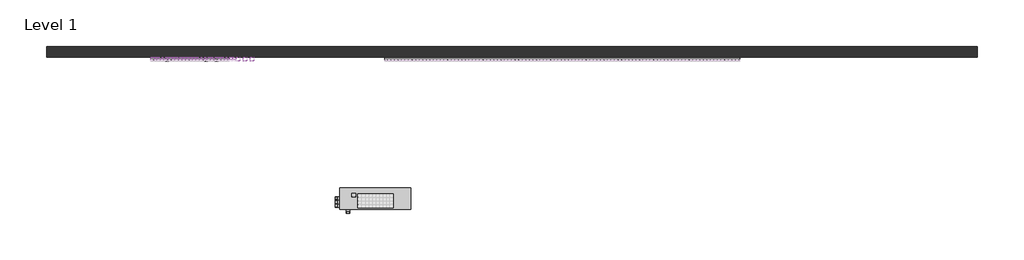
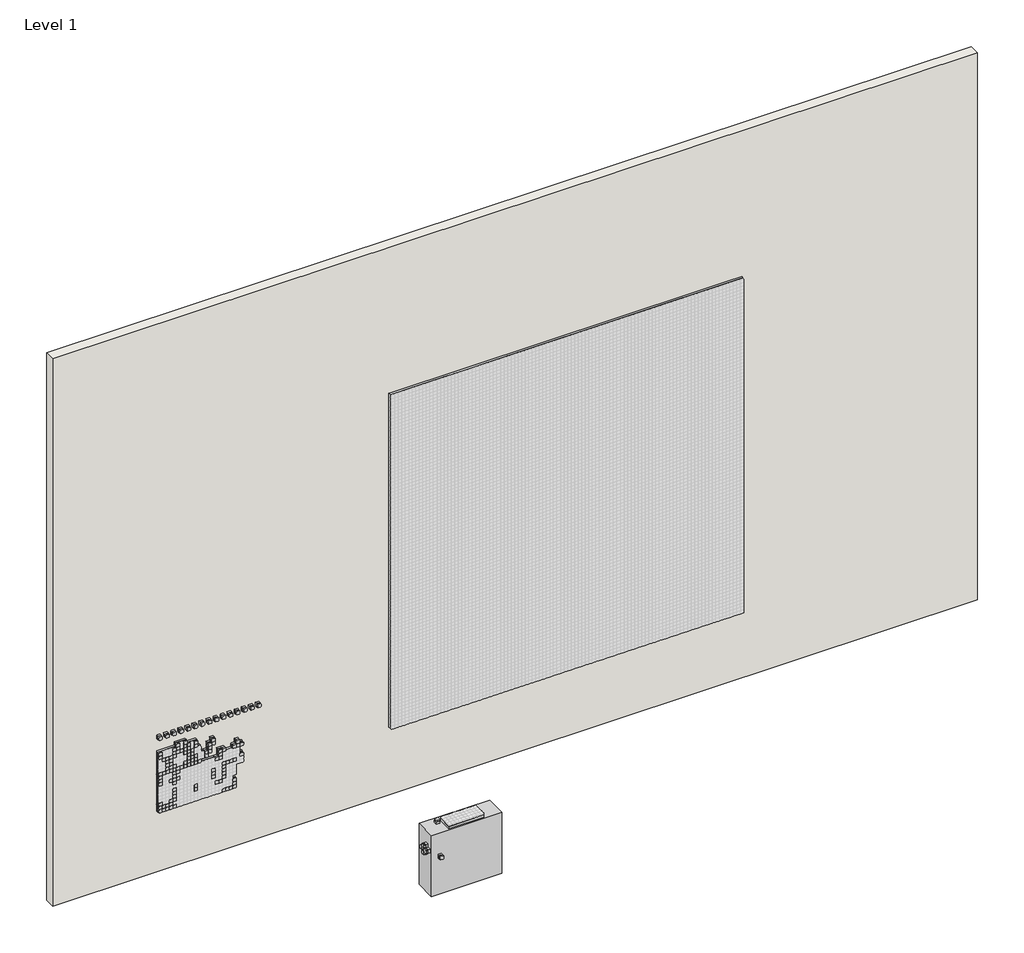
# One storey, part 1 of 71: 118 furniture elements, 39 proxies, 1 wall.
"""IFC4 building model written with IfcOpenShell, lengths in millimetres."""

from ifc_helpers import new_model, si_unit, origin, origin_with_axes, place, context, project, spatial, polyline, outline, extrude, transform, mapped, element, save
from components import generic_models_afde289c, furniture_94353657, furniture_115687b7, furniture_e3328a38, furniture_21a6de4b, furniture_6717f674, furniture_b0e0c35f, furniture_eb65c164, furniture_66459304, furniture_848c3687, furniture_9d582094, furniture_b8ba6693, furniture_cc517636, furniture_6c4caacf, furniture_a965c874, furniture_5129da02, furniture_1_furniture_1_4fa513ff

model = new_model("IFC4")

# Units and contexts
model_context = context("Model", 3, world=origin())
ifc_project = project(units=[si_unit("LENGTHUNIT", "METRE", prefix="MILLI")], contexts=[model_context])

# Site, building, storey
site = spatial("IfcSite", under=ifc_project)
building = spatial("IfcBuilding", under=site)
storey = spatial("IfcBuildingStorey", under=building, Name="Level 1", Elevation=0.0)

# Proxies
placement = place(None, origin())
generic_models_shape = generic_models_afde289c(model_context)
element("IfcBuildingElementProxy", 1, Name="Pixel_M : Pixel_M", ObjectType="Pixel_M : Pixel_M", at=placement, inside=storey, context=model_context, shape_type="MappedRepresentation", body=[
    mapped(generic_models_shape, transform((1670.0, -75.0, 1013.7975209), x_axis=(1.0, 0.0, 0.0), y_axis=(0.0, 0.0, 1.0), z_axis=(0.0, -1.0, 0.0))),
])
element("IfcBuildingElementProxy", 2, Name="Pixel_M : Pixel_M", ObjectType="Pixel_M : Pixel_M", at=placement, inside=storey, context=model_context, shape_type="MappedRepresentation", body=[
    mapped(generic_models_shape, transform((1670.0, -75.0, 913.7975209), x_axis=(1.0, 0.0, 0.0), y_axis=(0.0, 0.0, 1.0), z_axis=(0.0, -1.0, 0.0))),
])
element("IfcBuildingElementProxy", 3, Name="Pixel_M : Pixel_M", ObjectType="Pixel_M : Pixel_M", at=placement, inside=storey, context=model_context, shape_type="MappedRepresentation", body=[
    mapped(generic_models_shape, transform((1970.0, -75.0, 1113.7975209), x_axis=(1.0, 0.0, 0.0), y_axis=(0.0, 0.0, 1.0), z_axis=(0.0, -1.0, 0.0))),
])
element("IfcBuildingElementProxy", 4, Name="Pixel_M : Pixel_M", ObjectType="Pixel_M : Pixel_M", at=placement, inside=storey, context=model_context, shape_type="MappedRepresentation", body=[
    mapped(generic_models_shape, transform((1670.0, -75.0, 1113.7975209), x_axis=(1.0, 0.0, 0.0), y_axis=(0.0, 0.0, 1.0), z_axis=(0.0, -1.0, 0.0))),
])
element("IfcBuildingElementProxy", 5, Name="Pixel_M : Pixel_M", ObjectType="Pixel_M : Pixel_M", at=placement, inside=storey, context=model_context, shape_type="MappedRepresentation", body=[
    mapped(generic_models_shape, transform((1970.0, -75.0, 1063.7975209), x_axis=(1.0, 0.0, 0.0), y_axis=(0.0, 0.0, 1.0), z_axis=(0.0, -1.0, 0.0))),
])
element("IfcBuildingElementProxy", 6, Name="Pixel_M : Pixel_M", ObjectType="Pixel_M : Pixel_M", at=placement, inside=storey, context=model_context, shape_type="MappedRepresentation", body=[
    mapped(generic_models_shape, transform((1670.0, -75.0, 1063.7975209), x_axis=(1.0, 0.0, 0.0), y_axis=(0.0, 0.0, 1.0), z_axis=(0.0, -1.0, 0.0))),
])
element("IfcBuildingElementProxy", 7, Name="Pixel_M : Pixel_M", ObjectType="Pixel_M : Pixel_M", at=placement, inside=storey, context=model_context, shape_type="MappedRepresentation", body=[
    mapped(generic_models_shape, transform((1670.0, -75.0, 1413.7975209), x_axis=(1.0, 0.0, 0.0), y_axis=(0.0, 0.0, 1.0), z_axis=(0.0, -1.0, 0.0))),
])
element("IfcBuildingElementProxy", 8, Name="Pixel_M : Pixel_M", ObjectType="Pixel_M : Pixel_M", at=placement, inside=storey, context=model_context, shape_type="MappedRepresentation", body=[
    mapped(generic_models_shape, transform((1470.0, -75.0, 1413.7975209), x_axis=(1.0, 0.0, 0.0), y_axis=(0.0, 0.0, 1.0), z_axis=(0.0, -1.0, 0.0))),
])
element("IfcBuildingElementProxy", 9, Name="Pixel_M : Pixel_M", ObjectType="Pixel_M : Pixel_M", at=placement, inside=storey, context=model_context, shape_type="MappedRepresentation", body=[
    mapped(generic_models_shape, transform((1670.0, -75.0, 1363.7975209), x_axis=(1.0, 0.0, 0.0), y_axis=(0.0, 0.0, 1.0), z_axis=(0.0, -1.0, 0.0))),
])
element("IfcBuildingElementProxy", 10, Name="Pixel_M : Pixel_M", ObjectType="Pixel_M : Pixel_M", at=placement, inside=storey, context=model_context, shape_type="MappedRepresentation", body=[
    mapped(generic_models_shape, transform((1470.0, -75.0, 1363.7975209), x_axis=(1.0, 0.0, 0.0), y_axis=(0.0, 0.0, 1.0), z_axis=(0.0, -1.0, 0.0))),
])
element("IfcBuildingElementProxy", 11, Name="Pixel_M : Pixel_M", ObjectType="Pixel_M : Pixel_M", at=placement, inside=storey, context=model_context, shape_type="MappedRepresentation", body=[
    mapped(generic_models_shape, transform((1820.0, -75.0, 1663.7975209), x_axis=(1.0, 0.0, 0.0), y_axis=(0.0, 0.0, 1.0), z_axis=(0.0, -1.0, 0.0))),
])
element("IfcBuildingElementProxy", 12, Name="Pixel_M : Pixel_M", ObjectType="Pixel_M : Pixel_M", at=placement, inside=storey, context=model_context, shape_type="MappedRepresentation", body=[
    mapped(generic_models_shape, transform((1670.0, -75.0, 1663.7975209), x_axis=(1.0, 0.0, 0.0), y_axis=(0.0, 0.0, 1.0), z_axis=(0.0, -1.0, 0.0))),
])
element("IfcBuildingElementProxy", 13, Name="Pixel_M : Pixel_M", ObjectType="Pixel_M : Pixel_M", at=placement, inside=storey, context=model_context, shape_type="MappedRepresentation", body=[
    mapped(generic_models_shape, transform((1820.0, -75.0, 1513.7975209), x_axis=(1.0, 0.0, 0.0), y_axis=(0.0, 0.0, 1.0), z_axis=(0.0, -1.0, 0.0))),
])
element("IfcBuildingElementProxy", 14, Name="Pixel_M : Pixel_M", ObjectType="Pixel_M : Pixel_M", at=placement, inside=storey, context=model_context, shape_type="MappedRepresentation", body=[
    mapped(generic_models_shape, transform((1670.0, -75.0, 1513.7975209), x_axis=(1.0, 0.0, 0.0), y_axis=(0.0, 0.0, 1.0), z_axis=(0.0, -1.0, 0.0))),
])
element("IfcBuildingElementProxy", 15, Name="Pixel_M : Pixel_M", ObjectType="Pixel_M : Pixel_M", at=placement, inside=storey, context=model_context, shape_type="MappedRepresentation", body=[
    mapped(generic_models_shape, transform((1970.0, -75.0, 1563.7975209), x_axis=(1.0, 0.0, 0.0), y_axis=(0.0, 0.0, 1.0), z_axis=(0.0, -1.0, 0.0))),
])
element("IfcBuildingElementProxy", 16, Name="Pixel_M : Pixel_M", ObjectType="Pixel_M : Pixel_M", at=placement, inside=storey, context=model_context, shape_type="MappedRepresentation", body=[
    mapped(generic_models_shape, transform((1970.0, -75.0, 1513.7975209), x_axis=(1.0, 0.0, 0.0), y_axis=(0.0, 0.0, 1.0), z_axis=(0.0, -1.0, 0.0))),
])
element("IfcBuildingElementProxy", 17, Name="Pixel_M : Pixel_M", ObjectType="Pixel_M : Pixel_M", at=placement, inside=storey, context=model_context, shape_type="MappedRepresentation", body=[
    mapped(generic_models_shape, transform((1920.0, -75.0, 1663.7975209), x_axis=(1.0, 0.0, 0.0), y_axis=(0.0, 0.0, 1.0), z_axis=(0.0, -1.0, 0.0))),
])
element("IfcBuildingElementProxy", 18, Name="Pixel_M : Pixel_M", ObjectType="Pixel_M : Pixel_M", at=placement, inside=storey, context=model_context, shape_type="MappedRepresentation", body=[
    mapped(generic_models_shape, transform((1920.0, -75.0, 1613.7975209), x_axis=(1.0, 0.0, 0.0), y_axis=(0.0, 0.0, 1.0), z_axis=(0.0, -1.0, 0.0))),
])
element("IfcBuildingElementProxy", 19, Name="Pixel_M : Pixel_M", ObjectType="Pixel_M : Pixel_M", at=placement, inside=storey, context=model_context, shape_type="MappedRepresentation", body=[
    mapped(generic_models_shape, transform((1970.0, -75.0, 1763.7975209), x_axis=(1.0, 0.0, 0.0), y_axis=(0.0, 0.0, 1.0), z_axis=(0.0, -1.0, 0.0))),
])
element("IfcBuildingElementProxy", 20, Name="Pixel_M : Pixel_M", ObjectType="Pixel_M : Pixel_M", at=placement, inside=storey, context=model_context, shape_type="MappedRepresentation", body=[
    mapped(generic_models_shape, transform((1870.0, -75.0, 1763.7975209), x_axis=(1.0, 0.0, 0.0), y_axis=(0.0, 0.0, 1.0), z_axis=(0.0, -1.0, 0.0))),
])
element("IfcBuildingElementProxy", 21, Name="Pixel_M : Pixel_M", ObjectType="Pixel_M : Pixel_M", at=placement, inside=storey, context=model_context, shape_type="MappedRepresentation", body=[
    mapped(generic_models_shape, transform((1970.0, -75.0, 1713.7975209), x_axis=(1.0, 0.0, 0.0), y_axis=(0.0, 0.0, 1.0), z_axis=(0.0, -1.0, 0.0))),
])
element("IfcBuildingElementProxy", 22, Name="Pixel_M : Pixel_M", ObjectType="Pixel_M : Pixel_M", at=placement, inside=storey, context=model_context, shape_type="MappedRepresentation", body=[
    mapped(generic_models_shape, transform((1870.0, -75.0, 1713.7975209), x_axis=(1.0, 0.0, 0.0), y_axis=(0.0, 0.0, 1.0), z_axis=(0.0, -1.0, 0.0))),
])
element("IfcBuildingElementProxy", 23, Name="Pixel_M : Pixel_M", ObjectType="Pixel_M : Pixel_M", at=placement, inside=storey, context=model_context, shape_type="MappedRepresentation", body=[
    mapped(generic_models_shape, transform((1820.0, -75.0, 1813.7975209), x_axis=(1.0, 0.0, 0.0), y_axis=(0.0, 0.0, 1.0), z_axis=(0.0, -1.0, 0.0))),
])
element("IfcBuildingElementProxy", 24, Name="Pixel_M : Pixel_M", ObjectType="Pixel_M : Pixel_M", at=placement, inside=storey, context=model_context, shape_type="MappedRepresentation", body=[
    mapped(generic_models_shape, transform((1720.0, -75.0, 1813.7975209), x_axis=(1.0, 0.0, 0.0), y_axis=(0.0, 0.0, 1.0), z_axis=(0.0, -1.0, 0.0))),
])
element("IfcBuildingElementProxy", 25, Name="Pixel_M : Pixel_M", ObjectType="Pixel_M : Pixel_M", at=placement, inside=storey, context=model_context, shape_type="MappedRepresentation", body=[
    mapped(generic_models_shape, transform((1820.0, -75.0, 1763.7975209), x_axis=(1.0, 0.0, 0.0), y_axis=(0.0, 0.0, 1.0), z_axis=(0.0, -1.0, 0.0))),
])
element("IfcBuildingElementProxy", 26, Name="Pixel_M : Pixel_M", ObjectType="Pixel_M : Pixel_M", at=placement, inside=storey, context=model_context, shape_type="MappedRepresentation", body=[
    mapped(generic_models_shape, transform((1720.0, -75.0, 1763.7975209), x_axis=(1.0, 0.0, 0.0), y_axis=(0.0, 0.0, 1.0), z_axis=(0.0, -1.0, 0.0))),
])
element("IfcBuildingElementProxy", 27, Name="Pixel_M : Pixel_M", ObjectType="Pixel_M : Pixel_M", at=placement, inside=storey, context=model_context, shape_type="MappedRepresentation", body=[
    mapped(generic_models_shape, transform((1520.0, -75.0, 1663.7975209), x_axis=(1.0, 0.0, 0.0), y_axis=(0.0, 0.0, 1.0), z_axis=(0.0, -1.0, 0.0))),
])
element("IfcBuildingElementProxy", 28, Name="Pixel_M : Pixel_M", ObjectType="Pixel_M : Pixel_M", at=placement, inside=storey, context=model_context, shape_type="MappedRepresentation", body=[
    mapped(generic_models_shape, transform((1620.0, -75.0, 1313.7975209), x_axis=(1.0, 0.0, 0.0), y_axis=(0.0, 0.0, 1.0), z_axis=(0.0, -1.0, 0.0))),
])
element("IfcBuildingElementProxy", 29, Name="Pixel_M : Pixel_M", ObjectType="Pixel_M : Pixel_M", at=placement, inside=storey, context=model_context, shape_type="MappedRepresentation", body=[
    mapped(generic_models_shape, transform((1470.0, -75.0, 1313.7975209), x_axis=(1.0, 0.0, 0.0), y_axis=(0.0, 0.0, 1.0), z_axis=(0.0, -1.0, 0.0))),
])
element("IfcBuildingElementProxy", 30, Name="Pixel_M : Pixel_M", ObjectType="Pixel_M : Pixel_M", at=placement, inside=storey, context=model_context, shape_type="MappedRepresentation", body=[
    mapped(generic_models_shape, transform((1620.0, -75.0, 1013.7975209), x_axis=(1.0, 0.0, 0.0), y_axis=(0.0, 0.0, 1.0), z_axis=(0.0, -1.0, 0.0))),
])
element("IfcBuildingElementProxy", 31, Name="Pixel_M : Pixel_M", ObjectType="Pixel_M : Pixel_M", at=placement, inside=storey, context=model_context, shape_type="MappedRepresentation", body=[
    mapped(generic_models_shape, transform((1470.0, -75.0, 1013.7975209), x_axis=(1.0, 0.0, 0.0), y_axis=(0.0, 0.0, 1.0), z_axis=(0.0, -1.0, 0.0))),
])
element("IfcBuildingElementProxy", 32, Name="Pixel_M : Pixel_M", ObjectType="Pixel_M : Pixel_M", at=placement, inside=storey, context=model_context, shape_type="MappedRepresentation", body=[
    mapped(generic_models_shape, transform((1670.0, -75.0, 1263.7975209), x_axis=(1.0, 0.0, 0.0), y_axis=(0.0, 0.0, 1.0), z_axis=(0.0, -1.0, 0.0))),
])
element("IfcBuildingElementProxy", 33, Name="Pixel_M : Pixel_M", ObjectType="Pixel_M : Pixel_M", at=placement, inside=storey, context=model_context, shape_type="MappedRepresentation", body=[
    mapped(generic_models_shape, transform((1670.0, -75.0, 1163.7975209), x_axis=(1.0, 0.0, 0.0), y_axis=(0.0, 0.0, 1.0), z_axis=(0.0, -1.0, 0.0))),
])
element("IfcBuildingElementProxy", 34, Name="Pixel_M : Pixel_M", ObjectType="Pixel_M : Pixel_M", at=placement, inside=storey, context=model_context, shape_type="MappedRepresentation", body=[
    mapped(generic_models_shape, transform((1720.0, -75.0, 1413.7975209), x_axis=(1.0, 0.0, 0.0), y_axis=(0.0, 0.0, 1.0), z_axis=(0.0, -1.0, 0.0))),
])
element("IfcBuildingElementProxy", 35, Name="Pixel_M : Pixel_M", ObjectType="Pixel_M : Pixel_M", at=placement, inside=storey, context=model_context, shape_type="MappedRepresentation", body=[
    mapped(generic_models_shape, transform((1720.0, -75.0, 1313.7975209), x_axis=(1.0, 0.0, 0.0), y_axis=(0.0, 0.0, 1.0), z_axis=(0.0, -1.0, 0.0))),
])
element("IfcBuildingElementProxy", 36, Name="Pixel_M : Pixel_M", ObjectType="Pixel_M : Pixel_M", at=placement, inside=storey, context=model_context, shape_type="MappedRepresentation", body=[
    mapped(generic_models_shape, transform((1670.0, -75.0, 1763.7975209), x_axis=(1.0, 0.0, 0.0), y_axis=(0.0, 0.0, 1.0), z_axis=(0.0, -1.0, 0.0))),
])
element("IfcBuildingElementProxy", 37, Name="Pixel_M : Pixel_M", ObjectType="Pixel_M : Pixel_M", at=placement, inside=storey, context=model_context, shape_type="MappedRepresentation", body=[
    mapped(generic_models_shape, transform((1470.0, -75.0, 1763.7975209), x_axis=(1.0, 0.0, 0.0), y_axis=(0.0, 0.0, 1.0), z_axis=(0.0, -1.0, 0.0))),
])
element("IfcBuildingElementProxy", 38, Name="Pixel_M : Pixel_M", ObjectType="Pixel_M : Pixel_M", at=placement, inside=storey, context=model_context, shape_type="MappedRepresentation", body=[
    mapped(generic_models_shape, transform((1670.0, -75.0, 1713.7975209), x_axis=(1.0, 0.0, 0.0), y_axis=(0.0, 0.0, 1.0), z_axis=(0.0, -1.0, 0.0))),
])
element("IfcBuildingElementProxy", 39, Name="Pixel_M : Pixel_M", ObjectType="Pixel_M : Pixel_M", at=placement, inside=storey, context=model_context, shape_type="MappedRepresentation", body=[
    mapped(generic_models_shape, transform((1470.0, -75.0, 1713.7975209), x_axis=(1.0, 0.0, 0.0), y_axis=(0.0, 0.0, 1.0), z_axis=(0.0, -1.0, 0.0))),
])

# Furniture
furniture_shape = furniture_94353657(model_context)
element("IfcFurniture", 40, ObjectType="Pixel_Multiple : Pixel_Multiple", at=placement, inside=storey, context=model_context, shape_type="MappedRepresentation", body=[
    mapped(furniture_shape, transform((2270.0, -75.0, 1313.7975209), x_axis=(1.0, 0.0, 0.0), y_axis=(0.0, 0.0, 1.0), z_axis=(0.0, -1.0, 0.0))),
])
element("IfcFurniture", 41, ObjectType="Pixel_Multiple : Pixel_Multiple", at=placement, inside=storey, context=model_context, shape_type="MappedRepresentation", body=[
    mapped(furniture_shape, transform((2570.0, -75.0, 1263.7975209), x_axis=(1.0, 0.0, 0.0), y_axis=(0.0, 0.0, 1.0), z_axis=(0.0, -1.0, 0.0))),
])
furniture_2_shape = furniture_115687b7(model_context)
element("IfcFurniture", 42, ObjectType="Pixel_Multiple : Pixel_Multiple", at=placement, inside=storey, context=model_context, shape_type="MappedRepresentation", body=[
    mapped(furniture_2_shape, transform((2270.0, -75.0, 1113.7975209), x_axis=(1.0, 0.0, 0.0), y_axis=(0.0, 0.0, 1.0), z_axis=(0.0, -1.0, 0.0))),
])
element("IfcFurniture", 43, ObjectType="Pixel_Multiple : Pixel_Multiple", at=placement, inside=storey, context=model_context, shape_type="MappedRepresentation", body=[
    mapped(furniture_2_shape, transform((1470.0, -75.0, 1513.7975209), x_axis=(1.0, 0.0, 0.0), y_axis=(0.0, 0.0, 1.0), z_axis=(0.0, -1.0, 0.0))),
])
furniture_3_shape = furniture_e3328a38(model_context)
element("IfcFurniture", 44, ObjectType="Pixel_Multiple : Pixel_Multiple", at=placement, inside=storey, context=model_context, shape_type="MappedRepresentation", body=[
    mapped(furniture_3_shape, transform((2020.0, -75.0, 1063.7975209), x_axis=(1.0, 0.0, 0.0), y_axis=(0.0, 0.0, 1.0), z_axis=(0.0, -1.0, 0.0))),
])
element("IfcFurniture", 45, ObjectType="Pixel_Multiple : Pixel_Multiple", at=placement, inside=storey, context=model_context, shape_type="MappedRepresentation", body=[
    mapped(furniture_3_shape, transform((1470.0, -75.0, 1713.7975209), x_axis=(1.0, 0.0, 0.0), y_axis=(0.0, 0.0, 1.0), z_axis=(0.0, -1.0, 0.0))),
])
furniture_4_shape = furniture_21a6de4b(model_context)
element("IfcFurniture", 46, ObjectType="Pixel_Multiple : Pixel_Multiple", at=placement, inside=storey, context=model_context, shape_type="MappedRepresentation", body=[
    mapped(furniture_4_shape, transform((1970.0, -75.0, 1513.7975209), x_axis=(1.0, 0.0, 0.0), y_axis=(0.0, 0.0, 1.0), z_axis=(0.0, -1.0, 0.0))),
])
element("IfcFurniture", 47, ObjectType="Pixel_Multiple : Pixel_Multiple", at=placement, inside=storey, context=model_context, shape_type="MappedRepresentation", body=[
    mapped(furniture_4_shape, transform((1920.0, -75.0, 1613.7975209), x_axis=(1.0, 0.0, 0.0), y_axis=(0.0, 0.0, 1.0), z_axis=(0.0, -1.0, 0.0))),
])
element("IfcFurniture", 48, ObjectType="Pixel_Multiple : Pixel_Multiple", at=placement, inside=storey, context=model_context, shape_type="MappedRepresentation", body=[
    mapped(furniture_4_shape, transform((1870.0, -75.0, 1713.7975209), x_axis=(1.0, 0.0, 0.0), y_axis=(0.0, 0.0, 1.0), z_axis=(0.0, -1.0, 0.0))),
])
element("IfcFurniture", 49, ObjectType="Pixel_Multiple : Pixel_Multiple", at=placement, inside=storey, context=model_context, shape_type="MappedRepresentation", body=[
    mapped(furniture_4_shape, transform((1720.0, -75.0, 1763.7975209), x_axis=(1.0, 0.0, 0.0), y_axis=(0.0, 0.0, 1.0), z_axis=(0.0, -1.0, 0.0))),
])
furniture_5_shape = furniture_6717f674(model_context)
element("IfcFurniture", 50, ObjectType="Pixel_Multiple : Pixel_Multiple", at=placement, inside=storey, context=model_context, shape_type="MappedRepresentation", body=[
    mapped(furniture_5_shape, transform((1670.0, -75.0, 1513.7975209), x_axis=(1.0, 0.0, 0.0), y_axis=(0.0, 0.0, 1.0), z_axis=(0.0, -1.0, 0.0))),
])
furniture_6_shape = furniture_b0e0c35f(model_context)
element("IfcFurniture", 51, ObjectType="Pixel_Multiple : Pixel_Multiple", at=placement, inside=storey, context=model_context, shape_type="MappedRepresentation", body=[
    mapped(furniture_6_shape, transform((1470.0, -75.0, 1013.7975209), x_axis=(1.0, 0.0, 0.0), y_axis=(0.0, 0.0, 1.0), z_axis=(0.0, -1.0, 0.0))),
])
element("IfcFurniture", 52, ObjectType="Pixel_Multiple : Pixel_Multiple", at=placement, inside=storey, context=model_context, shape_type="MappedRepresentation", body=[
    mapped(furniture_3_shape, transform((1470.0, -75.0, 1363.7975209), x_axis=(1.0, 0.0, 0.0), y_axis=(0.0, 0.0, 1.0), z_axis=(0.0, -1.0, 0.0))),
])
furniture_7_shape = furniture_eb65c164(model_context)
element("IfcFurniture", 53, ObjectType="Pixel_Multiple : Pixel_Multiple", at=placement, inside=storey, context=model_context, shape_type="MappedRepresentation", body=[
    mapped(furniture_7_shape, transform((1670.0, -75.0, 1063.7975209), x_axis=(1.0, 0.0, 0.0), y_axis=(0.0, 0.0, 1.0), z_axis=(0.0, -1.0, 0.0))),
])
furniture_8_shape = furniture_66459304(model_context)
element("IfcFurniture", 54, ObjectType="Pixel_Multiple : Pixel_Multiple", at=placement, inside=storey, context=model_context, shape_type="MappedRepresentation", body=[
    mapped(furniture_8_shape, transform((1670.0, -75.0, 913.7975209), x_axis=(1.0, 0.0, 0.0), y_axis=(0.0, 0.0, 1.0), z_axis=(0.0, -1.0, 0.0))),
])
furniture_9_shape = furniture_848c3687(model_context)
element("IfcFurniture", 55, ObjectType="Pixel_Multiple : Pixel_Multiple", at=placement, inside=storey, context=model_context, shape_type="MappedRepresentation", body=[
    mapped(furniture_9_shape, transform((1670.0, -75.0, 1163.7975209), x_axis=(1.0, 0.0, 0.0), y_axis=(0.0, 0.0, 1.0), z_axis=(0.0, -1.0, 0.0))),
])
element("IfcFurniture", 56, ObjectType="Pixel_Multiple : Pixel_Multiple", at=placement, inside=storey, context=model_context, shape_type="MappedRepresentation", body=[
    mapped(furniture_9_shape, transform((1720.0, -75.0, 1313.7975209), x_axis=(1.0, 0.0, 0.0), y_axis=(0.0, 0.0, 1.0), z_axis=(0.0, -1.0, 0.0))),
])
furniture_10_shape = furniture_9d582094(model_context)
element("IfcFurniture", 57, ObjectType="Pixel_Multiple : Pixel_Multiple", at=placement, inside=storey, context=model_context, shape_type="MappedRepresentation", body=[
    mapped(furniture_10_shape, transform((2420.0, -75.0, 1113.7975209), x_axis=(1.0, 0.0, 0.0), y_axis=(0.0, 0.0, 1.0), z_axis=(0.0, -1.0, 0.0))),
])
furniture_11_shape = furniture_b8ba6693(model_context)
element("IfcFurniture", 58, ObjectType="Pixel_Multiple : Pixel_Multiple", at=placement, inside=storey, context=model_context, shape_type="MappedRepresentation", body=[
    mapped(furniture_11_shape, transform((2370.0, -75.0, 963.7975209), x_axis=(1.0, 0.0, 0.0), y_axis=(0.0, 0.0, 1.0), z_axis=(0.0, -1.0, 0.0))),
])
furniture_12_shape = furniture_cc517636(model_context)
element("IfcFurniture", 59, ObjectType="Pixel_Multiple : Pixel_Multiple", at=placement, inside=storey, context=model_context, shape_type="MappedRepresentation", body=[
    mapped(furniture_12_shape, transform((2370.0, -75.0, 1363.7975209), x_axis=(1.0, 0.0, 0.0), y_axis=(0.0, 0.0, 1.0), z_axis=(0.0, -1.0, 0.0))),
])
furniture_13_shape = furniture_6c4caacf(model_context)
element("IfcFurniture", 60, ObjectType="Pixel_Multiple : Pixel_Multiple", at=placement, inside=storey, context=model_context, shape_type="MappedRepresentation", body=[
    mapped(furniture_13_shape, transform((4762.428094, -75.0, 1016.3566215), x_axis=(1.0, 0.0, 0.0), y_axis=(0.0, 0.0, 1.0), z_axis=(0.0, -1.0, 0.0))),
])
furniture_14_shape = furniture_a965c874(model_context)
element("IfcFurniture", 61, ObjectType="Pixel_Multiple : Pixel_Multiple", at=placement, inside=storey, context=model_context, shape_type="MappedRepresentation", body=[
    mapped(furniture_14_shape, transform((4883.8917257, -2203.0296603, 913.2497015), x_axis=(0.0, 1.0, 0.0), y_axis=(-1.0, 0.0, 0.0), z_axis=(0.0, 0.0, 1.0))),
])
furniture_15_shape = furniture_5129da02(model_context)
element("IfcFurniture", 62, ObjectType="Pixel_Single : Pixel_Single", at=placement, inside=storey, context=model_context, shape_type="MappedRepresentation", body=[
    mapped(furniture_15_shape, transform((4300.0, -1995.0, 913.2497015), x_axis=(0.0, -1.0, 0.0), y_axis=(1.0, 0.0, 0.0), z_axis=(0.0, 0.0, 1.0))),
])
element("IfcFurniture", 63, ObjectType="Pixel_Single : Pixel_Single", at=placement, inside=storey, context=model_context, shape_type="MappedRepresentation", body=[
    mapped(furniture_15_shape, transform((4220.0, -2219.7736366, 600.5914545), x_axis=(0.0, 0.0, -1.0), y_axis=(1.0, 0.0, 0.0), z_axis=(0.0, -1.0, 0.0))),
])
element("IfcFurniture", 64, ObjectType="Pixel_Single : Pixel_Single", at=placement, inside=storey, context=model_context, shape_type="MappedRepresentation", body=[
    mapped(furniture_15_shape, transform((2070.0, -75.0, 2000.0), x_axis=(1.0, 0.0, 0.0), y_axis=(0.0, 0.0, 1.0), z_axis=(0.0, -1.0, 0.0))),
])
element("IfcFurniture", 65, ObjectType="Pixel_Single : Pixel_Single", at=placement, inside=storey, context=model_context, shape_type="MappedRepresentation", body=[
    mapped(furniture_15_shape, transform((1620.0, -75.0, 913.7975209), x_axis=(1.0, 0.0, 0.0), y_axis=(0.0, 0.0, 1.0), z_axis=(0.0, -1.0, 0.0))),
])
element("IfcFurniture", 66, ObjectType="Pixel_Single : Pixel_Single", at=placement, inside=storey, context=model_context, shape_type="MappedRepresentation", body=[
    mapped(furniture_15_shape, transform((1570.0, -75.0, 913.7975209), x_axis=(1.0, 0.0, 0.0), y_axis=(0.0, 0.0, 1.0), z_axis=(0.0, -1.0, 0.0))),
])
element("IfcFurniture", 67, ObjectType="Pixel_Single : Pixel_Single", at=placement, inside=storey, context=model_context, shape_type="MappedRepresentation", body=[
    mapped(furniture_15_shape, transform((1520.0, -75.0, 913.7975209), x_axis=(1.0, 0.0, 0.0), y_axis=(0.0, 0.0, 1.0), z_axis=(0.0, -1.0, 0.0))),
])
element("IfcFurniture", 68, ObjectType="Pixel_Single : Pixel_Single", at=placement, inside=storey, context=model_context, shape_type="MappedRepresentation", body=[
    mapped(furniture_15_shape, transform((1620.0, -75.0, 963.7975209), x_axis=(1.0, 0.0, 0.0), y_axis=(0.0, 0.0, 1.0), z_axis=(0.0, -1.0, 0.0))),
])
element("IfcFurniture", 69, ObjectType="Pixel_Single : Pixel_Single", at=placement, inside=storey, context=model_context, shape_type="MappedRepresentation", body=[
    mapped(furniture_15_shape, transform((1470.0, -75.0, 913.7975209), x_axis=(1.0, 0.0, 0.0), y_axis=(0.0, 0.0, 1.0), z_axis=(0.0, -1.0, 0.0))),
])
element("IfcFurniture", 70, ObjectType="Pixel_Single : Pixel_Single", at=placement, inside=storey, context=model_context, shape_type="MappedRepresentation", body=[
    mapped(furniture_15_shape, transform((1670.0, -75.0, 1313.7975209), x_axis=(1.0, 0.0, 0.0), y_axis=(0.0, 0.0, 1.0), z_axis=(0.0, -1.0, 0.0))),
])
element("IfcFurniture", 71, ObjectType="Pixel_Single : Pixel_Single", at=placement, inside=storey, context=model_context, shape_type="MappedRepresentation", body=[
    mapped(furniture_15_shape, transform((2520.0, -75.0, 913.7975209), x_axis=(1.0, 0.0, 0.0), y_axis=(0.0, 0.0, 1.0), z_axis=(0.0, -1.0, 0.0))),
])
element("IfcFurniture", 72, ObjectType="Pixel_Single : Pixel_Single", at=placement, inside=storey, context=model_context, shape_type="MappedRepresentation", body=[
    mapped(furniture_15_shape, transform((2470.0, -75.0, 913.7975209), x_axis=(1.0, 0.0, 0.0), y_axis=(0.0, 0.0, 1.0), z_axis=(0.0, -1.0, 0.0))),
])
element("IfcFurniture", 73, ObjectType="Pixel_Single : Pixel_Single", at=placement, inside=storey, context=model_context, shape_type="MappedRepresentation", body=[
    mapped(furniture_15_shape, transform((2420.0, -75.0, 913.7975209), x_axis=(1.0, 0.0, 0.0), y_axis=(0.0, 0.0, 1.0), z_axis=(0.0, -1.0, 0.0))),
])
element("IfcFurniture", 74, ObjectType="Pixel_Single : Pixel_Single", at=placement, inside=storey, context=model_context, shape_type="MappedRepresentation", body=[
    mapped(furniture_15_shape, transform((2370.0, -75.0, 913.7975209), x_axis=(1.0, 0.0, 0.0), y_axis=(0.0, 0.0, 1.0), z_axis=(0.0, -1.0, 0.0))),
])
element("IfcFurniture", 75, ObjectType="Pixel_Single : Pixel_Single", at=placement, inside=storey, context=model_context, shape_type="MappedRepresentation", body=[
    mapped(furniture_15_shape, transform((1870.0, -75.0, 1563.7975209), x_axis=(1.0, 0.0, 0.0), y_axis=(0.0, 0.0, 1.0), z_axis=(0.0, -1.0, 0.0))),
])
element("IfcFurniture", 76, ObjectType="Pixel_Single : Pixel_Single", at=placement, inside=storey, context=model_context, shape_type="MappedRepresentation", body=[
    mapped(furniture_15_shape, transform((1870.0, -75.0, 1613.7975209), x_axis=(1.0, 0.0, 0.0), y_axis=(0.0, 0.0, 1.0), z_axis=(0.0, -1.0, 0.0))),
])
element("IfcFurniture", 77, ObjectType="Pixel_Single : Pixel_Single", at=placement, inside=storey, context=model_context, shape_type="MappedRepresentation", body=[
    mapped(furniture_15_shape, transform((2370.0, -75.0, 1113.7975209), x_axis=(1.0, 0.0, 0.0), y_axis=(0.0, 0.0, 1.0), z_axis=(0.0, -1.0, 0.0))),
])
element("IfcFurniture", 78, ObjectType="Pixel_Single : Pixel_Single", at=placement, inside=storey, context=model_context, shape_type="MappedRepresentation", body=[
    mapped(furniture_15_shape, transform((2370.0, -75.0, 1163.7975209), x_axis=(1.0, 0.0, 0.0), y_axis=(0.0, 0.0, 1.0), z_axis=(0.0, -1.0, 0.0))),
])
element("IfcFurniture", 79, ObjectType="Pixel_Single : Pixel_Single", at=placement, inside=storey, context=model_context, shape_type="MappedRepresentation", body=[
    mapped(furniture_15_shape, transform((1920.0, -75.0, 1563.7975209), x_axis=(1.0, 0.0, 0.0), y_axis=(0.0, 0.0, 1.0), z_axis=(0.0, -1.0, 0.0))),
])
element("IfcFurniture", 80, ObjectType="Pixel_Single : Pixel_Single", at=placement, inside=storey, context=model_context, shape_type="MappedRepresentation", body=[
    mapped(furniture_15_shape, transform((1720.0, -75.0, 1463.7975209), x_axis=(1.0, 0.0, 0.0), y_axis=(0.0, 0.0, 1.0), z_axis=(0.0, -1.0, 0.0))),
])
element("IfcFurniture", 81, ObjectType="Pixel_Single : Pixel_Single", at=placement, inside=storey, context=model_context, shape_type="MappedRepresentation", body=[
    mapped(furniture_15_shape, transform((1770.0, -75.0, 1463.7975209), x_axis=(1.0, 0.0, 0.0), y_axis=(0.0, 0.0, 1.0), z_axis=(0.0, -1.0, 0.0))),
])
element("IfcFurniture", 82, ObjectType="Pixel_Single : Pixel_Single", at=placement, inside=storey, context=model_context, shape_type="MappedRepresentation", body=[
    mapped(furniture_15_shape, transform((1820.0, -75.0, 1463.7975209), x_axis=(1.0, 0.0, 0.0), y_axis=(0.0, 0.0, 1.0), z_axis=(0.0, -1.0, 0.0))),
])
element("IfcFurniture", 83, ObjectType="Pixel_Single : Pixel_Single", at=placement, inside=storey, context=model_context, shape_type="MappedRepresentation", body=[
    mapped(furniture_15_shape, transform((1770.0, -75.0, 1713.7975209), x_axis=(1.0, 0.0, 0.0), y_axis=(0.0, 0.0, 1.0), z_axis=(0.0, -1.0, 0.0))),
])
element("IfcFurniture", 84, ObjectType="Pixel_Single : Pixel_Single", at=placement, inside=storey, context=model_context, shape_type="MappedRepresentation", body=[
    mapped(furniture_15_shape, transform((1820.0, -75.0, 1713.7975209), x_axis=(1.0, 0.0, 0.0), y_axis=(0.0, 0.0, 1.0), z_axis=(0.0, -1.0, 0.0))),
])
element("IfcFurniture", 85, ObjectType="Pixel_Single : Pixel_Single", at=placement, inside=storey, context=model_context, shape_type="MappedRepresentation", body=[
    mapped(furniture_15_shape, transform((1470.0, -75.0, 1463.7975209), x_axis=(1.0, 0.0, 0.0), y_axis=(0.0, 0.0, 1.0), z_axis=(0.0, -1.0, 0.0))),
])
element("IfcFurniture", 86, ObjectType="Pixel_Single : Pixel_Single", at=placement, inside=storey, context=model_context, shape_type="MappedRepresentation", body=[
    mapped(furniture_15_shape, transform((1520.0, -75.0, 1463.7975209), x_axis=(1.0, 0.0, 0.0), y_axis=(0.0, 0.0, 1.0), z_axis=(0.0, -1.0, 0.0))),
])
element("IfcFurniture", 87, ObjectType="Pixel_Single : Pixel_Single", at=placement, inside=storey, context=model_context, shape_type="MappedRepresentation", body=[
    mapped(furniture_15_shape, transform((1570.0, -75.0, 1463.7975209), x_axis=(1.0, 0.0, 0.0), y_axis=(0.0, 0.0, 1.0), z_axis=(0.0, -1.0, 0.0))),
])
element("IfcFurniture", 88, ObjectType="Pixel_Single : Pixel_Single", at=placement, inside=storey, context=model_context, shape_type="MappedRepresentation", body=[
    mapped(furniture_15_shape, transform((1620.0, -75.0, 1563.7975209), x_axis=(1.0, 0.0, 0.0), y_axis=(0.0, 0.0, 1.0), z_axis=(0.0, -1.0, 0.0))),
])
element("IfcFurniture", 89, ObjectType="Pixel_Single : Pixel_Single", at=placement, inside=storey, context=model_context, shape_type="MappedRepresentation", body=[
    mapped(furniture_15_shape, transform((1620.0, -75.0, 1663.7975209), x_axis=(1.0, 0.0, 0.0), y_axis=(0.0, 0.0, 1.0), z_axis=(0.0, -1.0, 0.0))),
])
element("IfcFurniture", 90, ObjectType="Pixel_Single : Pixel_Single", at=placement, inside=storey, context=model_context, shape_type="MappedRepresentation", body=[
    mapped(furniture_15_shape, transform((1570.0, -75.0, 1513.7975209), x_axis=(1.0, 0.0, 0.0), y_axis=(0.0, 0.0, 1.0), z_axis=(0.0, -1.0, 0.0))),
])
element("IfcFurniture", 91, ObjectType="Pixel_Single : Pixel_Single", at=placement, inside=storey, context=model_context, shape_type="MappedRepresentation", body=[
    mapped(furniture_15_shape, transform((2270.0, -75.0, 2000.0), x_axis=(1.0, 0.0, 0.0), y_axis=(0.0, 0.0, 1.0), z_axis=(0.0, -1.0, 0.0))),
])
element("IfcFurniture", 92, ObjectType="Pixel_Single : Pixel_Single", at=placement, inside=storey, context=model_context, shape_type="MappedRepresentation", body=[
    mapped(furniture_15_shape, transform((2570.0, -75.0, 2000.0), x_axis=(1.0, 0.0, 0.0), y_axis=(0.0, 0.0, 1.0), z_axis=(0.0, -1.0, 0.0))),
])
element("IfcFurniture", 93, ObjectType="Pixel_Single : Pixel_Single", at=placement, inside=storey, context=model_context, shape_type="MappedRepresentation", body=[
    mapped(furniture_15_shape, transform((1470.0, -75.0, 2000.0), x_axis=(1.0, 0.0, 0.0), y_axis=(0.0, 0.0, 1.0), z_axis=(0.0, -1.0, 0.0))),
])
element("IfcFurniture", 94, ObjectType="Pixel_Single : Pixel_Single", at=placement, inside=storey, context=model_context, shape_type="MappedRepresentation", body=[
    mapped(furniture_15_shape, transform((1570.0, -75.0, 963.7975209), x_axis=(1.0, 0.0, 0.0), y_axis=(0.0, 0.0, 1.0), z_axis=(0.0, -1.0, 0.0))),
])
element("IfcFurniture", 95, ObjectType="Pixel_Single : Pixel_Single", at=placement, inside=storey, context=model_context, shape_type="MappedRepresentation", body=[
    mapped(furniture_15_shape, transform((1520.0, -75.0, 963.7975209), x_axis=(1.0, 0.0, 0.0), y_axis=(0.0, 0.0, 1.0), z_axis=(0.0, -1.0, 0.0))),
])
element("IfcFurniture", 96, ObjectType="Pixel_Single : Pixel_Single", at=placement, inside=storey, context=model_context, shape_type="MappedRepresentation", body=[
    mapped(furniture_15_shape, transform((1470.0, -75.0, 963.7975209), x_axis=(1.0, 0.0, 0.0), y_axis=(0.0, 0.0, 1.0), z_axis=(0.0, -1.0, 0.0))),
])
element("IfcFurniture", 97, ObjectType="Pixel_Single : Pixel_Single", at=placement, inside=storey, context=model_context, shape_type="MappedRepresentation", body=[
    mapped(furniture_15_shape, transform((2320.0, -75.0, 1463.7975209), x_axis=(1.0, 0.0, 0.0), y_axis=(0.0, 0.0, 1.0), z_axis=(0.0, -1.0, 0.0))),
])
element("IfcFurniture", 98, ObjectType="Pixel_Single : Pixel_Single", at=placement, inside=storey, context=model_context, shape_type="MappedRepresentation", body=[
    mapped(furniture_15_shape, transform((2270.0, -75.0, 1063.7975209), x_axis=(1.0, 0.0, 0.0), y_axis=(0.0, 0.0, 1.0), z_axis=(0.0, -1.0, 0.0))),
])
element("IfcFurniture", 99, ObjectType="Pixel_Single : Pixel_Single", at=placement, inside=storey, context=model_context, shape_type="MappedRepresentation", body=[
    mapped(furniture_15_shape, transform((2220.0, -75.0, 1213.7975209), x_axis=(1.0, 0.0, 0.0), y_axis=(0.0, 0.0, 1.0), z_axis=(0.0, -1.0, 0.0))),
])
element("IfcFurniture", 100, ObjectType="Pixel_Single : Pixel_Single", at=placement, inside=storey, context=model_context, shape_type="MappedRepresentation", body=[
    mapped(furniture_15_shape, transform((2320.0, -75.0, 1063.7975209), x_axis=(1.0, 0.0, 0.0), y_axis=(0.0, 0.0, 1.0), z_axis=(0.0, -1.0, 0.0))),
])
element("IfcFurniture", 101, ObjectType="Pixel_Single : Pixel_Single", at=placement, inside=storey, context=model_context, shape_type="MappedRepresentation", body=[
    mapped(furniture_15_shape, transform((2470.0, -75.0, 1313.7975209), x_axis=(1.0, 0.0, 0.0), y_axis=(0.0, 0.0, 1.0), z_axis=(0.0, -1.0, 0.0))),
])
element("IfcFurniture", 102, ObjectType="Pixel_Single : Pixel_Single", at=placement, inside=storey, context=model_context, shape_type="MappedRepresentation", body=[
    mapped(furniture_15_shape, transform((1870.0, -75.0, 1463.7975209), x_axis=(1.0, 0.0, 0.0), y_axis=(0.0, 0.0, 1.0), z_axis=(0.0, -1.0, 0.0))),
])
element("IfcFurniture", 103, ObjectType="Pixel_Single : Pixel_Single", at=placement, inside=storey, context=model_context, shape_type="MappedRepresentation", body=[
    mapped(furniture_15_shape, transform((1870.0, -75.0, 1513.7975209), x_axis=(1.0, 0.0, 0.0), y_axis=(0.0, 0.0, 1.0), z_axis=(0.0, -1.0, 0.0))),
])
element("IfcFurniture", 104, ObjectType="Pixel_Single : Pixel_Single", at=placement, inside=storey, context=model_context, shape_type="MappedRepresentation", body=[
    mapped(furniture_15_shape, transform((2520.0, -75.0, 1313.7975209), x_axis=(1.0, 0.0, 0.0), y_axis=(0.0, 0.0, 1.0), z_axis=(0.0, -1.0, 0.0))),
])
element("IfcFurniture", 105, ObjectType="Pixel_Single : Pixel_Single", at=placement, inside=storey, context=model_context, shape_type="MappedRepresentation", body=[
    mapped(furniture_15_shape, transform((1920.0, -75.0, 1463.7975209), x_axis=(1.0, 0.0, 0.0), y_axis=(0.0, 0.0, 1.0), z_axis=(0.0, -1.0, 0.0))),
])
element("IfcFurniture", 106, ObjectType="Pixel_Single : Pixel_Single", at=placement, inside=storey, context=model_context, shape_type="MappedRepresentation", body=[
    mapped(furniture_15_shape, transform((2220.0, -75.0, 1713.7975209), x_axis=(1.0, 0.0, 0.0), y_axis=(0.0, 0.0, 1.0), z_axis=(0.0, -1.0, 0.0))),
])
element("IfcFurniture", 107, ObjectType="Pixel_Single : Pixel_Single", at=placement, inside=storey, context=model_context, shape_type="MappedRepresentation", body=[
    mapped(furniture_15_shape, transform((1970.0, -75.0, 1463.7975209), x_axis=(1.0, 0.0, 0.0), y_axis=(0.0, 0.0, 1.0), z_axis=(0.0, -1.0, 0.0))),
])
element("IfcFurniture", 108, ObjectType="Pixel_Single : Pixel_Single", at=placement, inside=storey, context=model_context, shape_type="MappedRepresentation", body=[
    mapped(furniture_15_shape, transform((1870.0, -75.0, 1663.7975209), x_axis=(1.0, 0.0, 0.0), y_axis=(0.0, 0.0, 1.0), z_axis=(0.0, -1.0, 0.0))),
])
element("IfcFurniture", 109, ObjectType="Pixel_Single : Pixel_Single", at=placement, inside=storey, context=model_context, shape_type="MappedRepresentation", body=[
    mapped(furniture_15_shape, transform((1720.0, -75.0, 1713.7975209), x_axis=(1.0, 0.0, 0.0), y_axis=(0.0, 0.0, 1.0), z_axis=(0.0, -1.0, 0.0))),
])
element("IfcFurniture", 110, ObjectType="Pixel_Single : Pixel_Single", at=placement, inside=storey, context=model_context, shape_type="MappedRepresentation", body=[
    mapped(furniture_15_shape, transform((1570.0, -75.0, 1613.7975209), x_axis=(1.0, 0.0, 0.0), y_axis=(0.0, 0.0, 1.0), z_axis=(0.0, -1.0, 0.0))),
])
element("IfcFurniture", 111, ObjectType="Pixel_Single : Pixel_Single", at=placement, inside=storey, context=model_context, shape_type="MappedRepresentation", body=[
    mapped(furniture_15_shape, transform((1570.0, -75.0, 1663.7975209), x_axis=(1.0, 0.0, 0.0), y_axis=(0.0, 0.0, 1.0), z_axis=(0.0, -1.0, 0.0))),
])
element("IfcFurniture", 112, ObjectType="Pixel_Single : Pixel_Single", at=placement, inside=storey, context=model_context, shape_type="MappedRepresentation", body=[
    mapped(furniture_15_shape, transform((1570.0, -75.0, 2000.0), x_axis=(1.0, 0.0, 0.0), y_axis=(0.0, 0.0, 1.0), z_axis=(0.0, -1.0, 0.0))),
])
element("IfcFurniture", 113, ObjectType="Pixel_Single : Pixel_Single", at=placement, inside=storey, context=model_context, shape_type="MappedRepresentation", body=[
    mapped(furniture_15_shape, transform((1670.0, -75.0, 2000.0), x_axis=(1.0, 0.0, 0.0), y_axis=(0.0, 0.0, 1.0), z_axis=(0.0, -1.0, 0.0))),
])
element("IfcFurniture", 114, ObjectType="Pixel_Single : Pixel_Single", at=placement, inside=storey, context=model_context, shape_type="MappedRepresentation", body=[
    mapped(furniture_15_shape, transform((1770.0, -75.0, 2000.0), x_axis=(1.0, 0.0, 0.0), y_axis=(0.0, 0.0, 1.0), z_axis=(0.0, -1.0, 0.0))),
])
element("IfcFurniture", 115, ObjectType="Pixel_Single : Pixel_Single", at=placement, inside=storey, context=model_context, shape_type="MappedRepresentation", body=[
    mapped(furniture_15_shape, transform((1870.0, -75.0, 2000.0), x_axis=(1.0, 0.0, 0.0), y_axis=(0.0, 0.0, 1.0), z_axis=(0.0, -1.0, 0.0))),
])
element("IfcFurniture", 116, ObjectType="Pixel_Single : Pixel_Single", at=placement, inside=storey, context=model_context, shape_type="MappedRepresentation", body=[
    mapped(furniture_15_shape, transform((1970.0, -75.0, 2000.0), x_axis=(1.0, 0.0, 0.0), y_axis=(0.0, 0.0, 1.0), z_axis=(0.0, -1.0, 0.0))),
])
element("IfcFurniture", 117, ObjectType="Pixel_Single : Pixel_Single", at=placement, inside=storey, context=model_context, shape_type="MappedRepresentation", body=[
    mapped(furniture_15_shape, transform((2170.0, -75.0, 2000.0), x_axis=(1.0, 0.0, 0.0), y_axis=(0.0, 0.0, 1.0), z_axis=(0.0, -1.0, 0.0))),
])
element("IfcFurniture", 118, ObjectType="Pixel_Single : Pixel_Single", at=placement, inside=storey, context=model_context, shape_type="MappedRepresentation", body=[
    mapped(furniture_15_shape, transform((4127.3677817, -2095.0, 644.5402452), x_axis=(0.0, 0.0, -1.0), y_axis=(0.0, -1.0, 0.0), z_axis=(-1.0, 0.0, 0.0))),
])
element("IfcFurniture", 119, ObjectType="Pixel_Single : Pixel_Single", at=placement, inside=storey, context=model_context, shape_type="MappedRepresentation", body=[
    mapped(furniture_15_shape, transform((2270.0, -75.0, 1413.7975209), x_axis=(1.0, 0.0, 0.0), y_axis=(0.0, 0.0, 1.0), z_axis=(0.0, -1.0, 0.0))),
])
element("IfcFurniture", 120, ObjectType="Pixel_Single : Pixel_Single", at=placement, inside=storey, context=model_context, shape_type="MappedRepresentation", body=[
    mapped(furniture_15_shape, transform((2370.0, -75.0, 2000.0), x_axis=(1.0, 0.0, 0.0), y_axis=(0.0, 0.0, 1.0), z_axis=(0.0, -1.0, 0.0))),
])
element("IfcFurniture", 121, ObjectType="Pixel_Single : Pixel_Single", at=placement, inside=storey, context=model_context, shape_type="MappedRepresentation", body=[
    mapped(furniture_15_shape, transform((4127.3677817, -2045.0, 694.5402452), x_axis=(0.0, 0.0, -1.0), y_axis=(0.0, -1.0, 0.0), z_axis=(-1.0, 0.0, 0.0))),
])
element("IfcFurniture", 122, ObjectType="Pixel_Single : Pixel_Single", at=placement, inside=storey, context=model_context, shape_type="MappedRepresentation", body=[
    mapped(furniture_15_shape, transform((4127.3677817, -2145.0, 694.5402452), x_axis=(0.0, 0.0, -1.0), y_axis=(0.0, -1.0, 0.0), z_axis=(-1.0, 0.0, 0.0))),
])
element("IfcFurniture", 123, ObjectType="Pixel_Single : Pixel_Single", at=placement, inside=storey, context=model_context, shape_type="MappedRepresentation", body=[
    mapped(furniture_15_shape, transform((4127.3677817, -2095.0, 744.5402452), x_axis=(0.0, 0.0, -1.0), y_axis=(0.0, -1.0, 0.0), z_axis=(-1.0, 0.0, 0.0))),
])
element("IfcFurniture", 124, ObjectType="Pixel_Single : Pixel_Single", at=placement, inside=storey, context=model_context, shape_type="MappedRepresentation", body=[
    mapped(furniture_15_shape, transform((2370.0, -75.0, 1313.7975209), x_axis=(1.0, 0.0, 0.0), y_axis=(0.0, 0.0, 1.0), z_axis=(0.0, -1.0, 0.0))),
])
element("IfcFurniture", 125, ObjectType="Pixel_Single : Pixel_Single", at=placement, inside=storey, context=model_context, shape_type="MappedRepresentation", body=[
    mapped(furniture_15_shape, transform((2220.0, -75.0, 1263.7975209), x_axis=(1.0, 0.0, 0.0), y_axis=(0.0, 0.0, 1.0), z_axis=(0.0, -1.0, 0.0))),
])
element("IfcFurniture", 126, ObjectType="Pixel_Single : Pixel_Single", at=placement, inside=storey, context=model_context, shape_type="MappedRepresentation", body=[
    mapped(furniture_15_shape, transform((2220.0, -75.0, 1163.7975209), x_axis=(1.0, 0.0, 0.0), y_axis=(0.0, 0.0, 1.0), z_axis=(0.0, -1.0, 0.0))),
])
element("IfcFurniture", 127, ObjectType="Pixel_Single : Pixel_Single", at=placement, inside=storey, context=model_context, shape_type="MappedRepresentation", body=[
    mapped(furniture_15_shape, transform((2420.0, -75.0, 1313.7975209), x_axis=(1.0, 0.0, 0.0), y_axis=(0.0, 0.0, 1.0), z_axis=(0.0, -1.0, 0.0))),
])
element("IfcFurniture", 128, ObjectType="Pixel_Single : Pixel_Single", at=placement, inside=storey, context=model_context, shape_type="MappedRepresentation", body=[
    mapped(furniture_15_shape, transform((2320.0, -75.0, 1413.7975209), x_axis=(1.0, 0.0, 0.0), y_axis=(0.0, 0.0, 1.0), z_axis=(0.0, -1.0, 0.0))),
])
element("IfcFurniture", 129, ObjectType="Pixel_Single : Pixel_Single", at=placement, inside=storey, context=model_context, shape_type="MappedRepresentation", body=[
    mapped(furniture_15_shape, transform((2320.0, -75.0, 1513.7975209), x_axis=(1.0, 0.0, 0.0), y_axis=(0.0, 0.0, 1.0), z_axis=(0.0, -1.0, 0.0))),
])
element("IfcFurniture", 130, ObjectType="Pixel_Single : Pixel_Single", at=placement, inside=storey, context=model_context, shape_type="MappedRepresentation", body=[
    mapped(furniture_15_shape, transform((2370.0, -75.0, 1213.7975209), x_axis=(1.0, 0.0, 0.0), y_axis=(0.0, 0.0, 1.0), z_axis=(0.0, -1.0, 0.0))),
])
element("IfcFurniture", 131, ObjectType="Pixel_Single : Pixel_Single", at=placement, inside=storey, context=model_context, shape_type="MappedRepresentation", body=[
    mapped(furniture_15_shape, transform((2370.0, -75.0, 1263.7975209), x_axis=(1.0, 0.0, 0.0), y_axis=(0.0, 0.0, 1.0), z_axis=(0.0, -1.0, 0.0))),
])
element("IfcFurniture", 132, ObjectType="Pixel_Single : Pixel_Single", at=placement, inside=storey, context=model_context, shape_type="MappedRepresentation", body=[
    mapped(furniture_15_shape, transform((2520.0, -75.0, 963.7975209), x_axis=(1.0, 0.0, 0.0), y_axis=(0.0, 0.0, 1.0), z_axis=(0.0, -1.0, 0.0))),
])
element("IfcFurniture", 133, ObjectType="Pixel_Single : Pixel_Single", at=placement, inside=storey, context=model_context, shape_type="MappedRepresentation", body=[
    mapped(furniture_15_shape, transform((2520.0, -75.0, 1013.7975209), x_axis=(1.0, 0.0, 0.0), y_axis=(0.0, 0.0, 1.0), z_axis=(0.0, -1.0, 0.0))),
])
element("IfcFurniture", 134, ObjectType="Pixel_Single : Pixel_Single", at=placement, inside=storey, context=model_context, shape_type="MappedRepresentation", body=[
    mapped(furniture_15_shape, transform((2370.0, -75.0, 1513.7975209), x_axis=(1.0, 0.0, 0.0), y_axis=(0.0, 0.0, 1.0), z_axis=(0.0, -1.0, 0.0))),
])
element("IfcFurniture", 135, ObjectType="Pixel_Single : Pixel_Single", at=placement, inside=storey, context=model_context, shape_type="MappedRepresentation", body=[
    mapped(furniture_15_shape, transform((2520.0, -75.0, 1513.7975209), x_axis=(1.0, 0.0, 0.0), y_axis=(0.0, 0.0, 1.0), z_axis=(0.0, -1.0, 0.0))),
])
element("IfcFurniture", 136, ObjectType="Pixel_Single : Pixel_Single", at=placement, inside=storey, context=model_context, shape_type="MappedRepresentation", body=[
    mapped(furniture_15_shape, transform((2570.0, -75.0, 1513.7975209), x_axis=(1.0, 0.0, 0.0), y_axis=(0.0, 0.0, 1.0), z_axis=(0.0, -1.0, 0.0))),
])
element("IfcFurniture", 137, ObjectType="Pixel_Single : Pixel_Single", at=placement, inside=storey, context=model_context, shape_type="MappedRepresentation", body=[
    mapped(furniture_15_shape, transform((2620.0, -75.0, 1363.7975209), x_axis=(1.0, 0.0, 0.0), y_axis=(0.0, 0.0, 1.0), z_axis=(0.0, -1.0, 0.0))),
])
element("IfcFurniture", 138, ObjectType="Pixel_Single : Pixel_Single", at=placement, inside=storey, context=model_context, shape_type="MappedRepresentation", body=[
    mapped(furniture_15_shape, transform((2620.0, -75.0, 1513.7975209), x_axis=(1.0, 0.0, 0.0), y_axis=(0.0, 0.0, 1.0), z_axis=(0.0, -1.0, 0.0))),
])
element("IfcFurniture", 139, ObjectType="Pixel_Single : Pixel_Single", at=placement, inside=storey, context=model_context, shape_type="MappedRepresentation", body=[
    mapped(furniture_15_shape, transform((2570.0, -75.0, 1563.7975209), x_axis=(1.0, 0.0, 0.0), y_axis=(0.0, 0.0, 1.0), z_axis=(0.0, -1.0, 0.0))),
])
element("IfcFurniture", 140, ObjectType="Pixel_Single : Pixel_Single", at=placement, inside=storey, context=model_context, shape_type="MappedRepresentation", body=[
    mapped(furniture_15_shape, transform((1920.0, -75.0, 1513.7975209), x_axis=(1.0, 0.0, 0.0), y_axis=(0.0, 0.0, 1.0), z_axis=(0.0, -1.0, 0.0))),
])
element("IfcFurniture", 141, ObjectType="Pixel_Single : Pixel_Single", at=placement, inside=storey, context=model_context, shape_type="MappedRepresentation", body=[
    mapped(furniture_15_shape, transform((2120.0, -75.0, 1513.7975209), x_axis=(1.0, 0.0, 0.0), y_axis=(0.0, 0.0, 1.0), z_axis=(0.0, -1.0, 0.0))),
])
element("IfcFurniture", 142, ObjectType="Pixel_Single : Pixel_Single", at=placement, inside=storey, context=model_context, shape_type="MappedRepresentation", body=[
    mapped(furniture_15_shape, transform((2120.0, -75.0, 1563.7975209), x_axis=(1.0, 0.0, 0.0), y_axis=(0.0, 0.0, 1.0), z_axis=(0.0, -1.0, 0.0))),
])
element("IfcFurniture", 143, ObjectType="Pixel_Single : Pixel_Single", at=placement, inside=storey, context=model_context, shape_type="MappedRepresentation", body=[
    mapped(furniture_15_shape, transform((2170.0, -75.0, 1563.7975209), x_axis=(1.0, 0.0, 0.0), y_axis=(0.0, 0.0, 1.0), z_axis=(0.0, -1.0, 0.0))),
])
element("IfcFurniture", 144, ObjectType="Pixel_Single : Pixel_Single", at=placement, inside=storey, context=model_context, shape_type="MappedRepresentation", body=[
    mapped(furniture_15_shape, transform((2170.0, -75.0, 1613.7975209), x_axis=(1.0, 0.0, 0.0), y_axis=(0.0, 0.0, 1.0), z_axis=(0.0, -1.0, 0.0))),
])
element("IfcFurniture", 145, ObjectType="Pixel_Single : Pixel_Single", at=placement, inside=storey, context=model_context, shape_type="MappedRepresentation", body=[
    mapped(furniture_15_shape, transform((2170.0, -75.0, 1663.7975209), x_axis=(1.0, 0.0, 0.0), y_axis=(0.0, 0.0, 1.0), z_axis=(0.0, -1.0, 0.0))),
])
element("IfcFurniture", 146, ObjectType="Pixel_Single : Pixel_Single", at=placement, inside=storey, context=model_context, shape_type="MappedRepresentation", body=[
    mapped(furniture_15_shape, transform((2220.0, -75.0, 1663.7975209), x_axis=(1.0, 0.0, 0.0), y_axis=(0.0, 0.0, 1.0), z_axis=(0.0, -1.0, 0.0))),
])
element("IfcFurniture", 147, ObjectType="Pixel_Single : Pixel_Single", at=placement, inside=storey, context=model_context, shape_type="MappedRepresentation", body=[
    mapped(furniture_15_shape, transform((2020.0, -75.0, 1463.7975209), x_axis=(1.0, 0.0, 0.0), y_axis=(0.0, 0.0, 1.0), z_axis=(0.0, -1.0, 0.0))),
])
element("IfcFurniture", 148, ObjectType="Pixel_Single : Pixel_Single", at=placement, inside=storey, context=model_context, shape_type="MappedRepresentation", body=[
    mapped(furniture_15_shape, transform((1620.0, -75.0, 1463.7975209), x_axis=(1.0, 0.0, 0.0), y_axis=(0.0, 0.0, 1.0), z_axis=(0.0, -1.0, 0.0))),
])
element("IfcFurniture", 149, ObjectType="Pixel_Single : Pixel_Single", at=placement, inside=storey, context=model_context, shape_type="MappedRepresentation", body=[
    mapped(furniture_15_shape, transform((1670.0, -75.0, 1463.7975209), x_axis=(1.0, 0.0, 0.0), y_axis=(0.0, 0.0, 1.0), z_axis=(0.0, -1.0, 0.0))),
])
element("IfcFurniture", 150, ObjectType="Pixel_Single : Pixel_Single", at=placement, inside=storey, context=model_context, shape_type="MappedRepresentation", body=[
    mapped(furniture_15_shape, transform((1570.0, -75.0, 1563.7975209), x_axis=(1.0, 0.0, 0.0), y_axis=(0.0, 0.0, 1.0), z_axis=(0.0, -1.0, 0.0))),
])
element("IfcFurniture", 151, ObjectType="Pixel_Single : Pixel_Single", at=placement, inside=storey, context=model_context, shape_type="MappedRepresentation", body=[
    mapped(furniture_15_shape, transform((1620.0, -75.0, 1613.7975209), x_axis=(1.0, 0.0, 0.0), y_axis=(0.0, 0.0, 1.0), z_axis=(0.0, -1.0, 0.0))),
])
element("IfcFurniture", 152, ObjectType="Pixel_Single : Pixel_Single", at=placement, inside=storey, context=model_context, shape_type="MappedRepresentation", body=[
    mapped(furniture_15_shape, transform((1620.0, -75.0, 1513.7975209), x_axis=(1.0, 0.0, 0.0), y_axis=(0.0, 0.0, 1.0), z_axis=(0.0, -1.0, 0.0))),
])
element("IfcFurniture", 153, ObjectType="Pixel_Single : Pixel_Single", at=placement, inside=storey, context=model_context, shape_type="MappedRepresentation", body=[
    mapped(furniture_15_shape, transform((2470.0, -75.0, 2000.0), x_axis=(1.0, 0.0, 0.0), y_axis=(0.0, 0.0, 1.0), z_axis=(0.0, -1.0, 0.0))),
])
element("IfcFurniture", 154, ObjectType="Pixel_Single : Pixel_Single", at=placement, inside=storey, context=model_context, shape_type="MappedRepresentation", body=[
    mapped(furniture_15_shape, transform((2670.0, -75.0, 2000.0), x_axis=(1.0, 0.0, 0.0), y_axis=(0.0, 0.0, 1.0), z_axis=(0.0, -1.0, 0.0))),
])
element("IfcFurniture", 155, ObjectType="Pixel_Single : Pixel_Single", at=placement, inside=storey, context=model_context, shape_type="MappedRepresentation", body=[
    mapped(furniture_15_shape, transform((2770.0, -75.0, 2000.0), x_axis=(1.0, 0.0, 0.0), y_axis=(0.0, 0.0, 1.0), z_axis=(0.0, -1.0, 0.0))),
])
element("IfcFurniture", 156, ObjectType="Pixel_Single : Pixel_Single", at=placement, inside=storey, context=model_context, shape_type="MappedRepresentation", body=[
    mapped(furniture_15_shape, transform((2870.0, -75.0, 2000.0), x_axis=(1.0, 0.0, 0.0), y_axis=(0.0, 0.0, 1.0), z_axis=(0.0, -1.0, 0.0))),
])
furniture_1_furniture_1_shape = furniture_1_furniture_1_4fa513ff(model_context)
element("IfcFurniture", 157, ObjectType="Furniture 1 : Furniture 1", at=placement, inside=storey, context=model_context, shape_type="MappedRepresentation", body=[
    mapped(furniture_1_furniture_1_shape, transform((-3200.0, 0.0, 0.0), x_axis=(1.0, 0.0, 0.0), y_axis=(0.0, 1.0, 0.0), z_axis=(0.0, 0.0, 1.0))),
])

# Wall
element("IfcWall", 158, ObjectType="Generic - 150", at=placement, inside=storey, context=model_context, shape_type="SweptSolid", body=[
    extrude(outline(polyline([(13106.0312693, -75.0), (0.0, -75.0), (0.0, 75.0), (13106.0312693, 75.0), (13106.0312693, -75.0)])), origin_with_axes(), (0.0, 0.0, 1.0), 8200.0),
])

save(model, "model.ifc")
